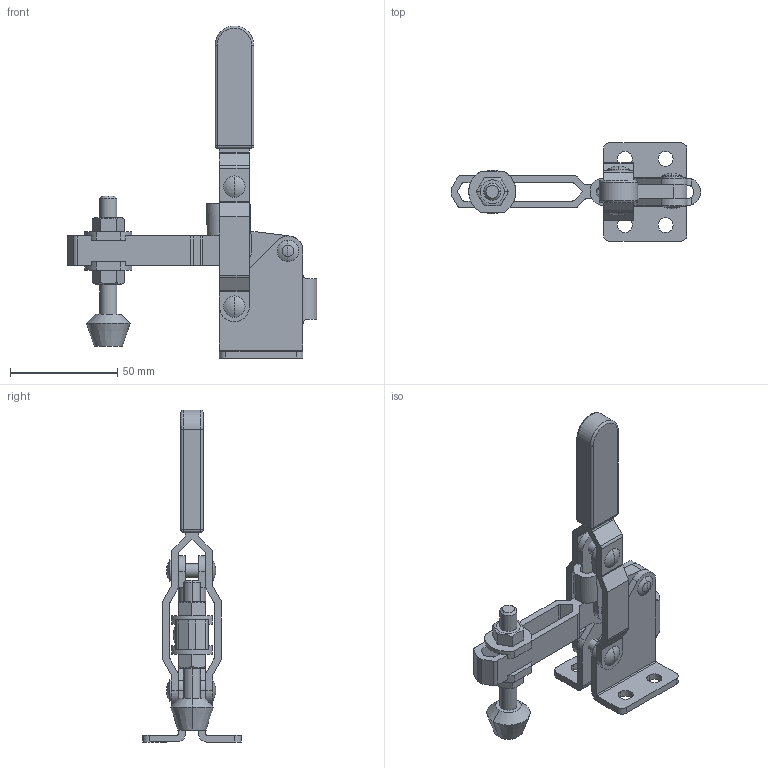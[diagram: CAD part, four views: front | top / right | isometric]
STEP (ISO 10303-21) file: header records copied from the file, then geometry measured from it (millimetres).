
FILE_DESCRIPTION(('CATIA V5 STEP Exchange'),'2;1');
FILE_NAME('D:\Model\toggle\toggle_standard\KJF_018_11F.stp','2005-06-24T04:52:28+00:00',('none'),('none'),'CATIA Version 5 Release 11 (IN-9)','CATIA V5 STEP AP203',' none');
FILE_SCHEMA(('CONFIG_CONTROL_DESIGN'));
Length unit declared in the file: millimetre
Products named in the file (1): Part1
Bounding box: 116.38 x 46 x 155 mm (x, y, z)
Volume: 60141.4 mm3; surface area: 38555 mm2
Topology: 13 solids, 13 shells, 281 faces, 727 edges, 460 vertices
Faces by surface type: plane 137, cylinder 104, sphere 24, cone 6, bspline 6, torus 4
Entity records: 8426 total; most frequent: CARTESIAN_POINT 1944, ORIENTED_EDGE 1414, DIRECTION 1110, EDGE_CURVE 707, AXIS2_PLACEMENT_3D 481, VERTEX_POINT 460, VECTOR 407, LINE 407
